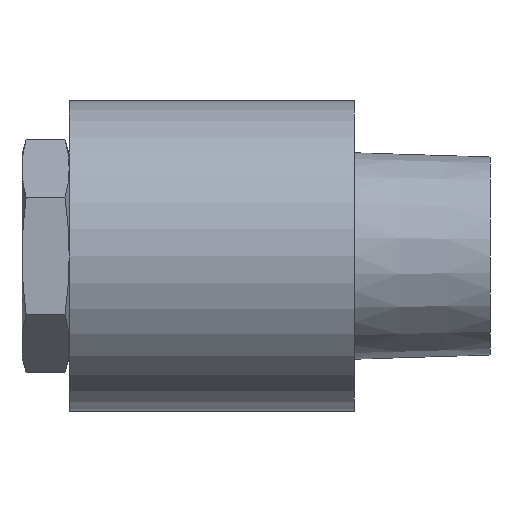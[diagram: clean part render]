
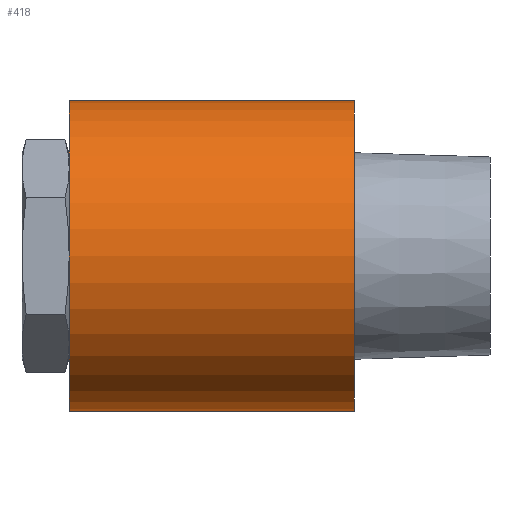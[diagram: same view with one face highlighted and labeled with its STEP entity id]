
A CAD part, left-side view. The second image highlights one B-rep face of the part: STEP entity #418.
In plain terms, the highlighted cylindrical face has radius 16.15 mm (diameter 32.3 mm), a full revolution.
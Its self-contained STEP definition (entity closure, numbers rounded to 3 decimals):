
#60=B_SPLINE_CURVE_WITH_KNOTS('',3,(#654,#655,#656,#657,#658,#659,#660,
#661,#662,#663,#664,#665,#666,#667,#668,#669,#670,#671,#672,#673,#674,#675,
#676),.UNSPECIFIED.,.T.,.F.,(1,1,1,1,1,1,1,1,1,1,1,1,1,1,1,1,1,1,1,1,1,
1,1,1,1,1,1),(-0.013,-0.009,-0.004,
0.,0.004,0.009,0.011,0.013,
0.015,0.018,0.022,0.026,
0.031,0.035,0.04,0.044,
0.048,0.051,0.053,0.055,
0.057,0.062,0.066,0.071,
0.075,0.079,0.082),.UNSPECIFIED.);
#85=ORIENTED_EDGE('',*,*,#197,.F.);
#86=ORIENTED_EDGE('',*,*,#198,.F.);
#87=ORIENTED_EDGE('',*,*,#199,.T.);
#197=EDGE_CURVE('',#253,#253,#291,.T.);
#198=EDGE_CURVE('',#254,#254,#60,.T.);
#199=EDGE_CURVE('',#255,#255,#292,.T.);
#253=VERTEX_POINT('',#653);
#254=VERTEX_POINT('',#677);
#255=VERTEX_POINT('',#679);
#291=CIRCLE('',#466,16.15);
#292=CIRCLE('',#467,16.15);
#316=EDGE_LOOP('',(#85));
#317=EDGE_LOOP('',(#86));
#318=EDGE_LOOP('',(#87));
#364=FACE_BOUND('',#316,.T.);
#365=FACE_BOUND('',#317,.T.);
#366=FACE_BOUND('',#318,.T.);
#412=CYLINDRICAL_SURFACE('',#465,16.15);
#418=ADVANCED_FACE('',(#364,#365,#366),#412,.T.);
#465=AXIS2_PLACEMENT_3D('',#651,#526,#527);
#466=AXIS2_PLACEMENT_3D('',#652,#528,#529);
#467=AXIS2_PLACEMENT_3D('',#678,#530,#531);
#526=DIRECTION('',(0.,-1.,0.));
#527=DIRECTION('',(1.,0.,0.));
#528=DIRECTION('',(0.,-1.,0.));
#529=DIRECTION('',(1.,0.,0.));
#530=DIRECTION('',(0.,-1.,0.));
#531=DIRECTION('',(1.,0.,0.));
#651=CARTESIAN_POINT('',(0.,-8.16,0.));
#652=CARTESIAN_POINT('',(0.,7.7,0.));
#653=CARTESIAN_POINT('',(16.15,7.7,0.));
#654=CARTESIAN_POINT('',(15.716,32.17,-4.439));
#655=CARTESIAN_POINT('',(16.366,33.114,0.005));
#656=CARTESIAN_POINT('',(15.72,32.175,4.42));
#657=CARTESIAN_POINT('',(14.462,30.169,7.334));
#658=CARTESIAN_POINT('',(13.37,28.025,9.094));
#659=CARTESIAN_POINT('',(12.628,26.207,10.087));
#660=CARTESIAN_POINT('',(12.063,24.138,10.744));
#661=CARTESIAN_POINT('',(11.769,21.174,11.055));
#662=CARTESIAN_POINT('',(12.512,17.515,10.283));
#663=CARTESIAN_POINT('',(14.199,14.062,7.937));
#664=CARTESIAN_POINT('',(15.709,11.638,4.459));
#665=CARTESIAN_POINT('',(16.365,10.688,0.027));
#666=CARTESIAN_POINT('',(15.729,11.611,-4.396));
#667=CARTESIAN_POINT('',(14.211,14.035,-7.919));
#668=CARTESIAN_POINT('',(12.811,16.919,-9.875));
#669=CARTESIAN_POINT('',(12.062,19.668,-10.744));
#670=CARTESIAN_POINT('',(11.846,21.886,-10.977));
#671=CARTESIAN_POINT('',(12.058,24.113,-10.749));
#672=CARTESIAN_POINT('',(12.807,26.874,-9.88));
#673=CARTESIAN_POINT('',(14.207,29.756,-7.921));
#674=CARTESIAN_POINT('',(15.716,32.17,-4.439));
#675=CARTESIAN_POINT('',(16.366,33.114,0.005));
#676=CARTESIAN_POINT('',(15.72,32.175,4.42));
#677=CARTESIAN_POINT('',(16.15,32.8,0.));
#678=CARTESIAN_POINT('',(0.,37.3,0.));
#679=CARTESIAN_POINT('',(16.15,37.3,0.));
